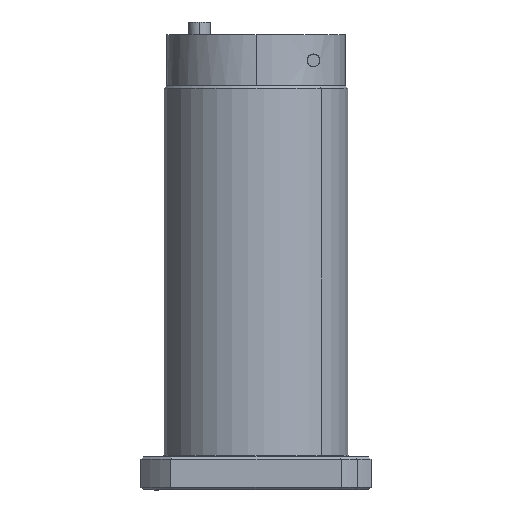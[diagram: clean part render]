
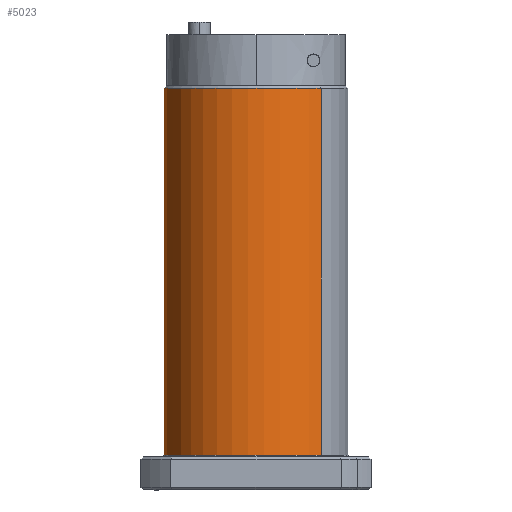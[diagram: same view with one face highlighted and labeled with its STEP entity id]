
A CAD part, left-side view. The second image highlights one B-rep face of the part: STEP entity #5023.
In plain terms, the highlighted cylindrical face has radius 36 mm (diameter 72 mm), a partial arc.
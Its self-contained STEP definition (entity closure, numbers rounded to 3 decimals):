
#216 = DIRECTION ( 'NONE',  ( 0.707, 0.707, 0. ) ) ;
#815 = CARTESIAN_POINT ( 'NONE',  ( 31.238, 31.485, 236.392 ) ) ;
#1173 = CARTESIAN_POINT ( 'NONE',  ( 5.782, 6.03, 92.892 ) ) ;
#1438 = VERTEX_POINT ( 'NONE', #815 ) ;
#1441 = CARTESIAN_POINT ( 'NONE',  ( -19.674, -19.426, 164.892 ) ) ;
#1583 = DIRECTION ( 'NONE',  ( -0.707, -0.707, 0. ) ) ;
#1883 = DIRECTION ( 'NONE',  ( 0., 0., -1. ) ) ;
#2286 = CARTESIAN_POINT ( 'NONE',  ( 5.782, 6.03, 164.892 ) ) ;
#2992 = LINE ( 'NONE', #1441, #4956 ) ;
#3208 = CIRCLE ( 'NONE', #4408, 36. ) ;
#3455 = CARTESIAN_POINT ( 'NONE',  ( 31.238, 31.485, 92.892 ) ) ;
#3474 = VERTEX_POINT ( 'NONE', #8728 ) ;
#3578 = ORIENTED_EDGE ( 'NONE', *, *, #9102, .F. ) ;
#3815 = EDGE_CURVE ( 'NONE', #10249, #3474, #2992, .T. ) ;
#3929 = VERTEX_POINT ( 'NONE', #3455 ) ;
#4130 = ORIENTED_EDGE ( 'NONE', *, *, #10219, .T. ) ;
#4208 = CARTESIAN_POINT ( 'NONE',  ( -19.674, -19.426, 236.392 ) ) ;
#4282 = ORIENTED_EDGE ( 'NONE', *, *, #9172, .F. ) ;
#4408 = AXIS2_PLACEMENT_3D ( 'NONE', #1173, #1883, #5161 ) ;
#4580 = CIRCLE ( 'NONE', #7854, 36. ) ;
#4607 = LINE ( 'NONE', #9561, #10475 ) ;
#4852 = FACE_OUTER_BOUND ( 'NONE', #5894, .T. ) ;
#4956 = VECTOR ( 'NONE', #9412, 1000. ) ;
#5023 = ADVANCED_FACE ( 'NONE', ( #4852 ), #10452, .T. ) ;
#5161 = DIRECTION ( 'NONE',  ( 0.707, 0.707, 0. ) ) ;
#5489 = DIRECTION ( 'NONE',  ( 0., 0., -1. ) ) ;
#5618 = ORIENTED_EDGE ( 'NONE', *, *, #3815, .F. ) ;
#5894 = EDGE_LOOP ( 'NONE', ( #3578, #4130, #4282, #5618 ) ) ;
#6469 = DIRECTION ( 'NONE',  ( 0., 0., -1. ) ) ;
#7735 = DIRECTION ( 'NONE',  ( 0., 0., 1. ) ) ;
#7854 = AXIS2_PLACEMENT_3D ( 'NONE', #9154, #7735, #216 ) ;
#8728 = CARTESIAN_POINT ( 'NONE',  ( -19.674, -19.426, 92.892 ) ) ;
#8751 = AXIS2_PLACEMENT_3D ( 'NONE', #2286, #6469, #1583 ) ;
#9102 = EDGE_CURVE ( 'NONE', #1438, #10249, #4580, .T. ) ;
#9154 = CARTESIAN_POINT ( 'NONE',  ( 5.782, 6.03, 236.392 ) ) ;
#9172 = EDGE_CURVE ( 'NONE', #3474, #3929, #3208, .T. ) ;
#9412 = DIRECTION ( 'NONE',  ( 0., 0., -1. ) ) ;
#9561 = CARTESIAN_POINT ( 'NONE',  ( 31.238, 31.485, 164.892 ) ) ;
#10219 = EDGE_CURVE ( 'NONE', #1438, #3929, #4607, .T. ) ;
#10249 = VERTEX_POINT ( 'NONE', #4208 ) ;
#10452 = CYLINDRICAL_SURFACE ( 'NONE', #8751, 36. ) ;
#10475 = VECTOR ( 'NONE', #5489, 1000. ) ;
